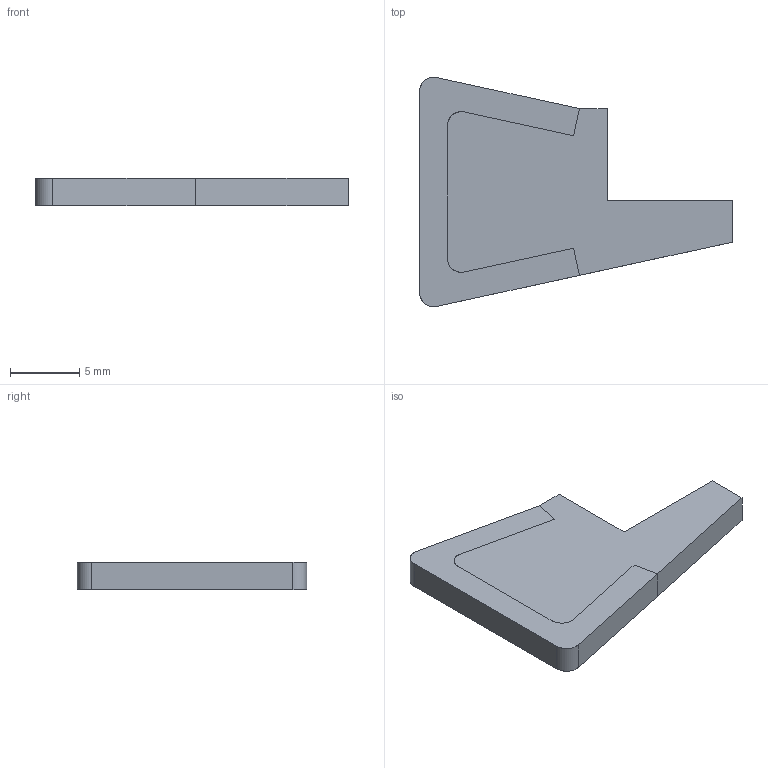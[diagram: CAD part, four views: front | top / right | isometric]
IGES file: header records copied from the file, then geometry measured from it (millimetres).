
Start section: SolidWorks IGES file using analytic representation for surfaces
Global section: file name: C:\Documents and Settings\URETIM3\Desktop\yeni katalog tolgay düzenli\E kataloðu\BS 700 PROFÝL ALPOLEN 1000\MONTAJ\206 KL3 102.MONTAJ.IGS; native system: SolidWorks 2006 by SolidWorks Corporation; preprocessor: SolidWorks 2006 by SolidWorks Corporation; author: URETIM3; date: 060913.092850; units: millimetre
Bounding box: 22.5 x 16.52 x 2 mm (x, y, z)
Surface area: 628.6 mm2 (no closed solid volume)
Topology: 0 solids, 0 shells, 17 faces, 184 edges, 184 vertices
Faces by surface type: bspline 14, revolution 3
